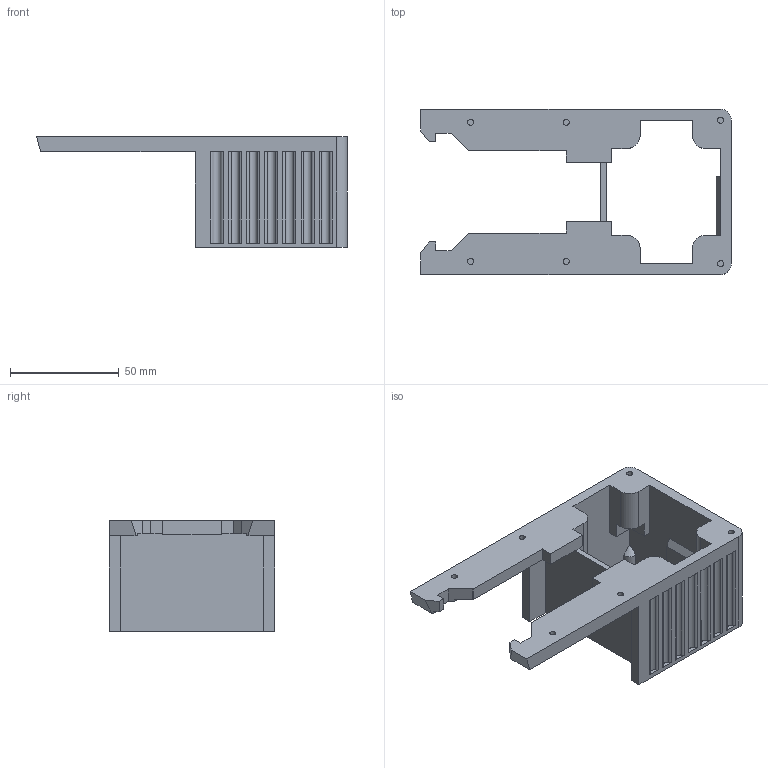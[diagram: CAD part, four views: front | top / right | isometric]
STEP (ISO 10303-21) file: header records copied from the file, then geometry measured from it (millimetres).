
FILE_DESCRIPTION(('FreeCAD Model'),'2;1');
FILE_NAME('Open CASCADE Shape Model','2026-01-28T11:33:38',(''),(''), 'Open CASCADE STEP processor 7.8','FreeCAD','Unknown');
FILE_SCHEMA(('AUTOMOTIVE_DESIGN { 1 0 10303 214 1 1 1 1 }'));
Length unit declared in the file: millimetre
Products named in the file (2): Latch Plate & Box Perimeter Part; Latch Plate Body
Assembly tree (1 placements, depth 2):
  Latch Plate & Box Perimeter Part
    Latch Plate Body
Bounding box: 143 x 76 x 51 mm (x, y, z)
Volume: 94280.5 mm3; surface area: 40933.2 mm2
Topology: 1 solids, 1 shells, 239 faces, 608 edges, 403 vertices
Faces by surface type: plane 163, cylinder 72, cone 4
Full cylindrical faces by diameter (mm): 2 x2, 2.8 x14, 6 x2
Entity records: 15260 total; most frequent: CARTESIAN_POINT 2673, DIRECTION 2420, LINE 1527, VECTOR 1527, ORIENTED_EDGE 1216, PCURVE 1216, DEFINITIONAL_REPRESENTATION 1216, EDGE_CURVE 608
